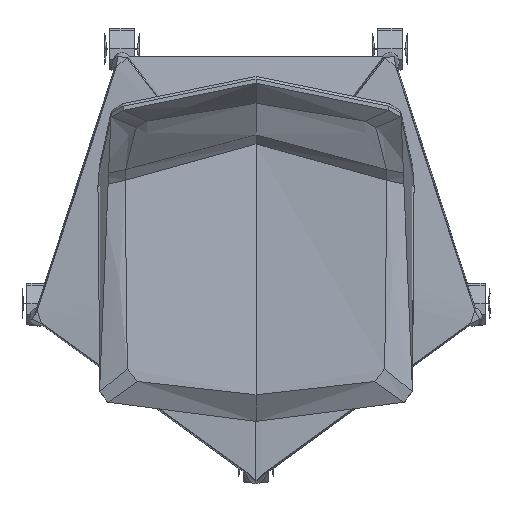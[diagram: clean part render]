
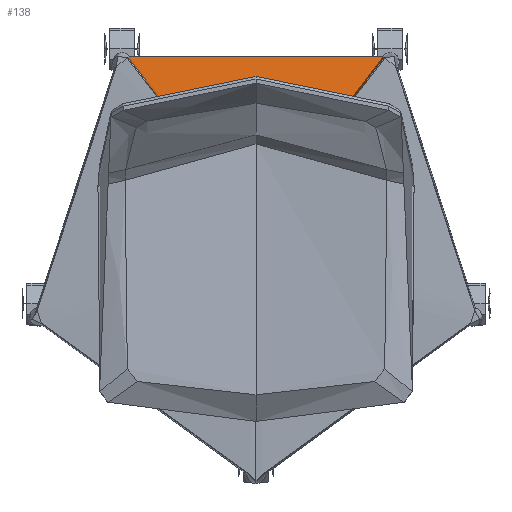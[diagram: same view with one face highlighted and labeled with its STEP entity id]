
A CAD part, top view. The second image highlights one B-rep face of the part: STEP entity #138.
In plain terms, the highlighted free-form (B-spline) face has degree [1, 2] with [2, 9] control points.
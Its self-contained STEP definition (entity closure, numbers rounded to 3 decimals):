
#138=ADVANCED_FACE('',(#371),#3062,.T.);
#371=FACE_OUTER_BOUND('',#604,.T.);
#604=EDGE_LOOP('',(#845,#846,#847,#848,#849));
#845=ORIENTED_EDGE('',*,*,#1937,.T.);
#846=ORIENTED_EDGE('',*,*,#1904,.T.);
#847=ORIENTED_EDGE('',*,*,#1878,.T.);
#848=ORIENTED_EDGE('',*,*,#1879,.T.);
#849=ORIENTED_EDGE('',*,*,#1934,.T.);
#1878=EDGE_CURVE('',#2718,#2719,#2435,.T.);
#1879=EDGE_CURVE('',#2719,#2749,#2436,.T.);
#1904=EDGE_CURVE('',#2748,#2718,#2461,.T.);
#1934=EDGE_CURVE('',#2749,#2747,#3256,.T.);
#1937=EDGE_CURVE('',#2747,#2748,#3259,.T.);
#2435=(
BOUNDED_CURVE()
B_SPLINE_CURVE(2,(#4528,#4529,#4530,#4531,#4532,#4533,#4534,#4535,#4536),
 .UNSPECIFIED.,.F.,.F.)
B_SPLINE_CURVE_WITH_KNOTS((3,2,2,2,3),(0.,291.287,304.227,
317.167,608.455),.UNSPECIFIED.)
CURVE()
GEOMETRIC_REPRESENTATION_ITEM()
RATIONAL_B_SPLINE_CURVE((1.,1.,1.,0.895,1.,0.895,
1.,1.,1.))
REPRESENTATION_ITEM('')
);
#2436=(
BOUNDED_CURVE()
B_SPLINE_CURVE(1,(#4537,#4538),.UNSPECIFIED.,.F.,.F.)
B_SPLINE_CURVE_WITH_KNOTS((2,2),(-35.284,-11.76),
 .UNSPECIFIED.)
CURVE()
GEOMETRIC_REPRESENTATION_ITEM()
RATIONAL_B_SPLINE_CURVE((1.,1.))
REPRESENTATION_ITEM('')
);
#2461=(
BOUNDED_CURVE()
B_SPLINE_CURVE(1,(#4628,#4629),.UNSPECIFIED.,.F.,.F.)
B_SPLINE_CURVE_WITH_KNOTS((2,2),(11.76,35.284),
 .UNSPECIFIED.)
CURVE()
GEOMETRIC_REPRESENTATION_ITEM()
RATIONAL_B_SPLINE_CURVE((1.,1.))
REPRESENTATION_ITEM('')
);
#2718=VERTEX_POINT('',#4448);
#2719=VERTEX_POINT('',#4449);
#2747=VERTEX_POINT('',#4477);
#2748=VERTEX_POINT('',#4478);
#2749=VERTEX_POINT('',#4479);
#3062=(
BOUNDED_SURFACE()
B_SPLINE_SURFACE(1,2,((#3726,#3727,#3728,#3729,#3730,#3731,#3732,#3733,
#3734),(#3735,#3736,#3737,#3738,#3739,#3740,#3741,#3742,#3743)),
 .UNSPECIFIED.,.F.,.F.,.F.)
B_SPLINE_SURFACE_WITH_KNOTS((2,2),(3,2,2,2,3),(0.,35.284),(0.,
291.287,304.227,317.167,608.455),
 .UNSPECIFIED.)
GEOMETRIC_REPRESENTATION_ITEM()
RATIONAL_B_SPLINE_SURFACE(((1.,1.,1.,0.895,1.,0.895,
1.,1.,1.),(1.,1.,1.,0.895,1.,0.895,1.,1.,1.)))
REPRESENTATION_ITEM('')
SURFACE()
);
#3256=B_SPLINE_CURVE_WITH_KNOTS('',3,(#5057,#5058,#5059,#5060,#5061,#5062,
#5063,#5064,#5065,#5066,#5067,#5068,#5069),.UNSPECIFIED.,.F.,.F.,(4,3,1,
1,3,1,4),(-0.072,-0.072,125.827,199.822,
291.478,298.304,305.233),.UNSPECIFIED.);
#3259=B_SPLINE_CURVE_WITH_KNOTS('',3,(#5085,#5086,#5087,#5088,#5089,#5090,
#5091,#5092,#5093,#5094,#5095,#5096,#5097),.UNSPECIFIED.,.F.,.F.,(4,1,3,
1,1,3,4),(0.,6.929,13.755,105.411,
179.406,305.304,305.304),.UNSPECIFIED.);
#3726=CARTESIAN_POINT('',(186.645,272.207,95.95));
#3727=CARTESIAN_POINT('',(98.91,155.955,95.95));
#3728=CARTESIAN_POINT('',(11.175,39.702,95.95));
#3729=CARTESIAN_POINT('',(6.974,34.136,95.95));
#3730=CARTESIAN_POINT('',(0.,34.136,95.95));
#3731=CARTESIAN_POINT('',(-6.974,34.136,95.95));
#3732=CARTESIAN_POINT('',(-11.175,39.702,95.95));
#3733=CARTESIAN_POINT('',(-98.91,155.955,95.95));
#3734=CARTESIAN_POINT('',(-186.645,272.207,95.95));
#3735=CARTESIAN_POINT('',(183.452,274.617,60.95));
#3736=CARTESIAN_POINT('',(95.717,158.364,60.95));
#3737=CARTESIAN_POINT('',(7.982,42.112,60.95));
#3738=CARTESIAN_POINT('',(4.981,38.136,60.95));
#3739=CARTESIAN_POINT('',(0.,38.136,60.95));
#3740=CARTESIAN_POINT('',(-4.981,38.136,60.95));
#3741=CARTESIAN_POINT('',(-7.982,42.112,60.95));
#3742=CARTESIAN_POINT('',(-95.717,158.364,60.95));
#3743=CARTESIAN_POINT('',(-183.452,274.617,60.95));
#4448=CARTESIAN_POINT('',(183.452,274.617,60.95));
#4449=CARTESIAN_POINT('',(-183.452,274.617,60.95));
#4477=CARTESIAN_POINT('',(0.,34.246,94.983));
#4478=CARTESIAN_POINT('',(185.581,273.01,84.284));
#4479=CARTESIAN_POINT('',(-185.581,273.01,84.284));
#4528=CARTESIAN_POINT('',(183.452,274.617,60.95));
#4529=CARTESIAN_POINT('',(95.717,158.364,60.95));
#4530=CARTESIAN_POINT('',(7.982,42.112,60.95));
#4531=CARTESIAN_POINT('',(4.981,38.136,60.95));
#4532=CARTESIAN_POINT('',(0.,38.136,60.95));
#4533=CARTESIAN_POINT('',(-4.981,38.136,60.95));
#4534=CARTESIAN_POINT('',(-7.982,42.112,60.95));
#4535=CARTESIAN_POINT('',(-95.717,158.364,60.95));
#4536=CARTESIAN_POINT('',(-183.452,274.617,60.95));
#4537=CARTESIAN_POINT('',(-183.452,274.617,60.95));
#4538=CARTESIAN_POINT('',(-185.581,273.01,84.284));
#4628=CARTESIAN_POINT('',(185.581,273.01,84.284));
#4629=CARTESIAN_POINT('',(183.452,274.617,60.95));
#5057=CARTESIAN_POINT('',(-185.581,273.01,84.284));
#5058=CARTESIAN_POINT('',(-185.581,273.01,84.284));
#5059=CARTESIAN_POINT('',(-185.581,273.01,84.284));
#5060=CARTESIAN_POINT('',(-185.581,273.01,84.284));
#5061=CARTESIAN_POINT('',(-160.684,239.389,87.612));
#5062=CARTESIAN_POINT('',(-120.927,186.026,91.218));
#5063=CARTESIAN_POINT('',(-62.668,108.291,94.063));
#5064=CARTESIAN_POINT('',(-29.471,64.17,94.765));
#5065=CARTESIAN_POINT('',(-11.083,39.772,94.941));
#5066=CARTESIAN_POINT('',(-9.807,38.074,94.954));
#5067=CARTESIAN_POINT('',(-6.432,35.263,94.975));
#5068=CARTESIAN_POINT('',(-2.156,34.243,94.983));
#5069=CARTESIAN_POINT('',(0.,34.246,94.983));
#5085=CARTESIAN_POINT('',(0.,34.246,94.983));
#5086=CARTESIAN_POINT('',(2.156,34.243,94.983));
#5087=CARTESIAN_POINT('',(6.432,35.263,94.975));
#5088=CARTESIAN_POINT('',(9.807,38.074,94.954));
#5089=CARTESIAN_POINT('',(11.083,39.772,94.941));
#5090=CARTESIAN_POINT('',(29.471,64.17,94.765));
#5091=CARTESIAN_POINT('',(62.668,108.291,94.063));
#5092=CARTESIAN_POINT('',(120.927,186.026,91.218));
#5093=CARTESIAN_POINT('',(160.683,239.389,87.612));
#5094=CARTESIAN_POINT('',(185.58,273.01,84.284));
#5095=CARTESIAN_POINT('',(185.581,273.01,84.284));
#5096=CARTESIAN_POINT('',(185.581,273.01,84.284));
#5097=CARTESIAN_POINT('',(185.581,273.01,84.284));
